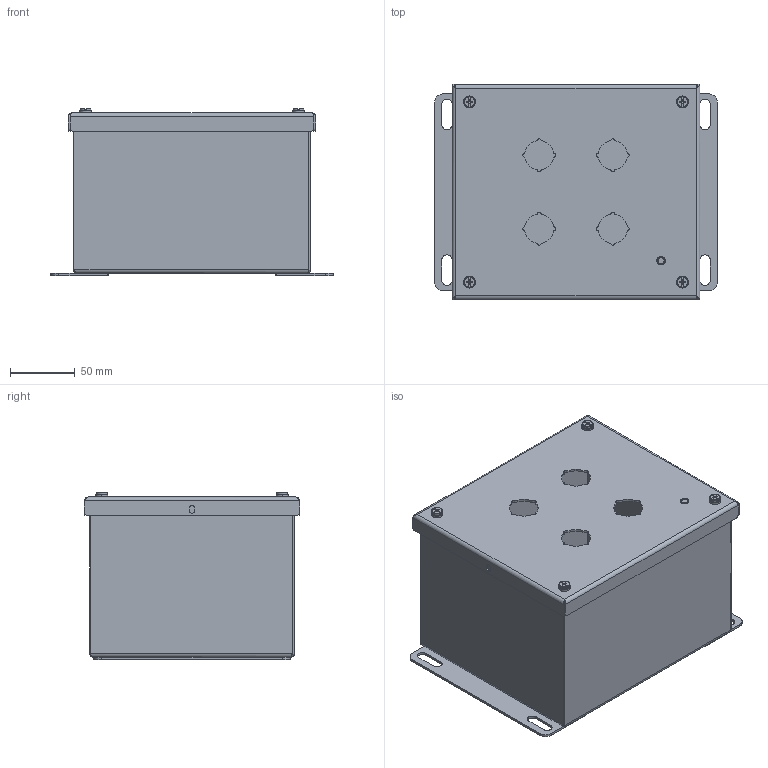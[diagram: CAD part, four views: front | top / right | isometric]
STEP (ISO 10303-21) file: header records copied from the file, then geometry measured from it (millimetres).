
FILE_DESCRIPTION((''),'2;1');
FILE_NAME('MODEL-335_ASM','2021-06-14T13:56:30',('chads'),('SAGINAW CONTROL & ENGINEERING'),'CREO PARAMETRIC BY PTC INC, 2017260','CREO PARAMETRIC BY PTC INC, 2017260','');
FILE_SCHEMA(('AUTOMOTIVE_DESIGN { 1 0 10303 214 1 1 1 1 }'));
Length unit declared in the file: inch
Products named in the file (10): MODEL-335-BDY; MODEL-335-DR; 100063; 102155; 101966; 100009; 100983; 102534; MODEL-335-GSKT; MODEL-335_ASM
Assembly tree (16 placements, depth 2):
  MODEL-335_ASM
    MODEL-335-BDY
    MODEL-335-DR
    100063
    102155  x2
    101966
    100009
    100983  x4
    102534  x4
    MODEL-335-GSKT
Bounding box: 219.07 x 166.69 x 130.14 mm (x, y, z)
Volume: 276000.2 mm3; surface area: 360927.1 mm2
Topology: 19 solids, 19 shells, 770 faces, 1923 edges, 1138 vertices
Faces by surface type: cylinder 286, plane 276, bspline 100, torus 80, cone 28
Entity records: 23329 total; most frequent: CARTESIAN_POINT 5939, DIRECTION 2395, ORIENTED_EDGE 2294, EDGE_CURVE 1147, PRESENTATION_STYLE_ASSIGNMENT 1059, STYLED_ITEM 1059, CURVE_STYLE 983, AXIS2_PLACEMENT_3D 881
